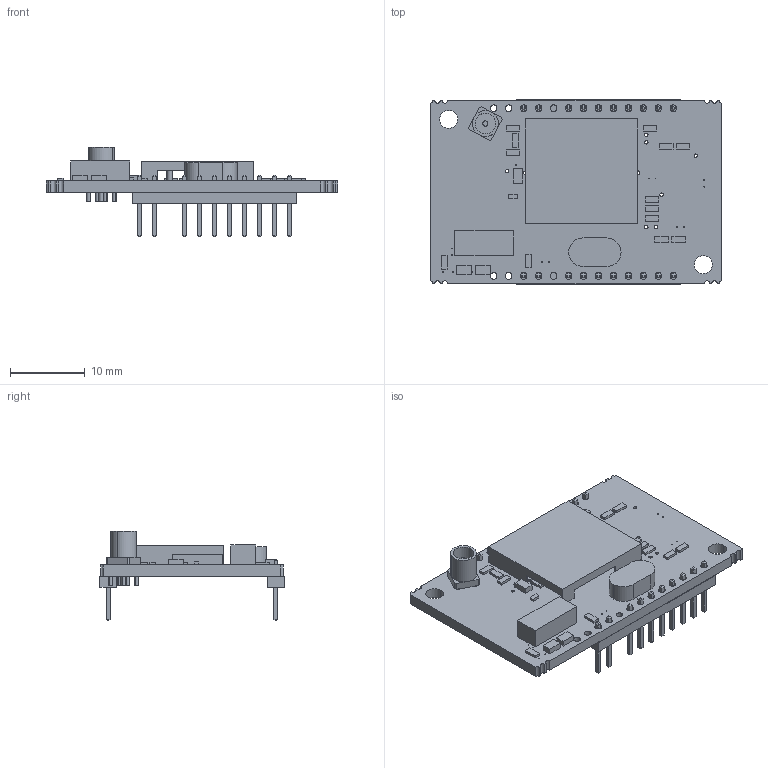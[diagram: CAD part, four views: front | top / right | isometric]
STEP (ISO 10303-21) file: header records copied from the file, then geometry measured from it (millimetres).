
FILE_DESCRIPTION (( 'STEP AP214' ), '1' );
FILE_NAME ('BEAR 061-183.STEP', '2016-04-27T19:41:45', ( '' ), ( '' ), 'SwSTEP 2.0', 'SolidWorks 2015', '' );
FILE_SCHEMA (( 'AUTOMOTIVE_DESIGN' ));
Length unit declared in the file: millimetre
Products named in the file (13): TESTPOINT_40TP40B_TP40B; 700-0173 - PHb820a-P110_GfN-445; bear_blzpcb; BEAR 061-183; CSM3X_CSM3X; SHIELD-440-0045; ECX306_ECX306; TP_TP; 0201_0201; 0603_0603; 0402_0402; QFN72_QFN72; 700-0173 - MMCX_JOHNSON_.110LG
Assembly tree (34 placements, depth 2):
  TESTPOINT_40TP40B_TP40B
  BEAR 061-183
    bear_blzpcb
    700-0173 - PHb820a-P110_GfN-445  x2
    700-0173 - MMCX_JOHNSON_.110LG
    QFN72_QFN72
    0402_0402  x22
    0603_0603  x3
    0201_0201
    ECX306_ECX306
    SHIELD-440-0045
    CSM3X_CSM3X
  TP_TP
Bounding box: 38.99 x 24.59 x 11.95 mm (x, y, z)
Volume: 1791.8 mm3; surface area: 3939 mm2
Topology: 34 solids, 34 shells, 850 faces, 2038 edges, 1303 vertices
Faces by surface type: plane 614, cylinder 236
Entity records: 19736 total; most frequent: DIRECTION 2950, CARTESIAN_POINT 2784, ORIENTED_EDGE 2700, EDGE_CURVE 1350, AXIS2_PLACEMENT_3D 1037, VECTOR 876, LINE 876, VERTEX_POINT 871
